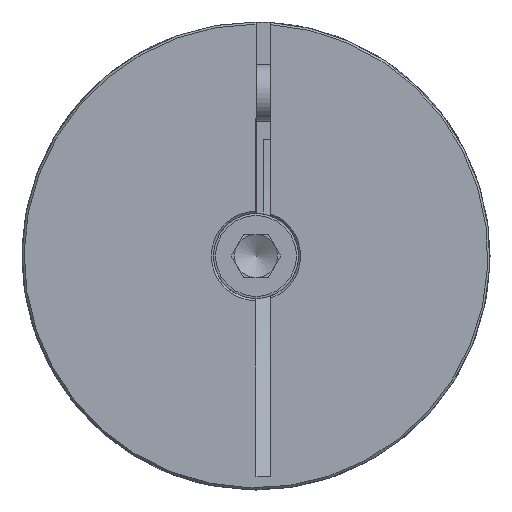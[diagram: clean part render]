
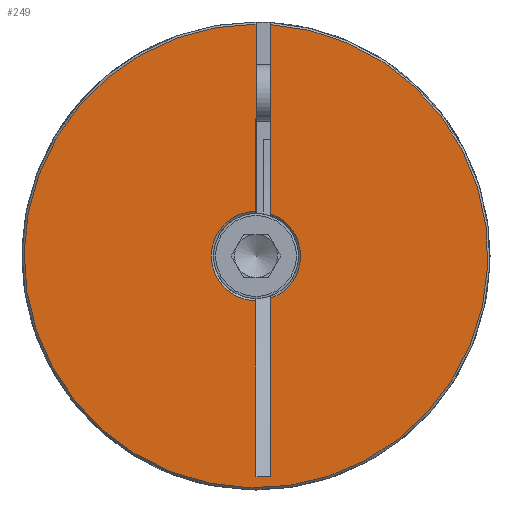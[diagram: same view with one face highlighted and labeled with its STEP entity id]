
A CAD part, left-side view. The second image highlights one B-rep face of the part: STEP entity #249.
In plain terms, the highlighted planar face has unit normal (-1, 0, 0) as drawn and (0, 0, 1) by its records, which use the part's own axes.
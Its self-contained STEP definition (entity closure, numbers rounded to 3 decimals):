
#249 = ADVANCED_FACE( 'NONE', ( #519 ), #520, .T. );
#519 = FACE_OUTER_BOUND( '', #876, .T. );
#520 = PLANE( '', #877 );
#876 = EDGE_LOOP( '', ( #1302, #1303, #1304, #1305, #1306, #1307, #1308, #1309 ) );
#877 = AXIS2_PLACEMENT_3D( '', #1310, #1311, #1312 );
#1302 = ORIENTED_EDGE( '', *, *, #1864, .F. );
#1303 = ORIENTED_EDGE( '', *, *, #1865, .T. );
#1304 = ORIENTED_EDGE( '', *, *, #1791, .F. );
#1305 = ORIENTED_EDGE( '', *, *, #1866, .T. );
#1306 = ORIENTED_EDGE( '', *, *, #1867, .T. );
#1307 = ORIENTED_EDGE( '', *, *, #1868, .T. );
#1308 = ORIENTED_EDGE( '', *, *, #1778, .T. );
#1309 = ORIENTED_EDGE( '', *, *, #1869, .F. );
#1310 = CARTESIAN_POINT( '', ( 0., 0., 29. ) );
#1311 = DIRECTION( '', ( 0., 0., 1. ) );
#1312 = DIRECTION( '', ( 1., 0., 0. ) );
#1778 = EDGE_CURVE( 'NONE', #2015, #2016, #2017, .T. );
#1791 = EDGE_CURVE( 'NONE', #2038, #2039, #2040, .F. );
#1864 = EDGE_CURVE( 'NONE', #2161, #2162, #2163, .F. );
#1865 = EDGE_CURVE( 'NONE', #2161, #2039, #2164, .F. );
#1866 = EDGE_CURVE( 'NONE', #2038, #2165, #2166, .T. );
#1867 = EDGE_CURVE( 'NONE', #2165, #2167, #2168, .T. );
#1868 = EDGE_CURVE( 'NONE', #2167, #2015, #2169, .F. );
#1869 = EDGE_CURVE( 'NONE', #2162, #2016, #2170, .F. );
#2015 = VERTEX_POINT( 'NONE', #2347 );
#2016 = VERTEX_POINT( 'NONE', #2348 );
#2017 = LINE( '', #2349, #2350 );
#2038 = VERTEX_POINT( 'NONE', #2377 );
#2039 = VERTEX_POINT( 'NONE', #2378 );
#2040 = LINE( '', #2379, #2380 );
#2161 = VERTEX_POINT( 'NONE', #2602 );
#2162 = VERTEX_POINT( 'NONE', #2603 );
#2163 = LINE( '', #2604, #2605 );
#2164 = CIRCLE( '', #2606, 6.3 );
#2165 = VERTEX_POINT( 'NONE', #2607 );
#2166 = CIRCLE( '', #2608, 32.7 );
#2167 = VERTEX_POINT( 'NONE', #2609 );
#2168 = LINE( '', #2610, #2611 );
#2169 = CIRCLE( '', #2612, 6.3 );
#2170 = LINE( '', #2613, #2614 );
#2347 = CARTESIAN_POINT( '', ( -5.974, -2., 29. ) );
#2348 = CARTESIAN_POINT( '', ( -31.103, -2., 29. ) );
#2349 = CARTESIAN_POINT( '', ( 0., -2., 29. ) );
#2350 = VECTOR( '', #2902, 1000. );
#2377 = CARTESIAN_POINT( '', ( 32.7, 0., 29. ) );
#2378 = CARTESIAN_POINT( '', ( 6.3, 0., 29. ) );
#2379 = CARTESIAN_POINT( '', ( 16.5, 0., 29. ) );
#2380 = VECTOR( '', #2921, 1000. );
#2602 = CARTESIAN_POINT( '', ( -6.3, 0., 29. ) );
#2603 = CARTESIAN_POINT( '', ( -31.103, 0., 29. ) );
#2604 = CARTESIAN_POINT( '', ( 16.5, 0., 29. ) );
#2605 = VECTOR( '', #3031, 1000. );
#2606 = AXIS2_PLACEMENT_3D( '', #3032, #3033, #3034 );
#2607 = CARTESIAN_POINT( '', ( 32.639, -2., 29. ) );
#2608 = AXIS2_PLACEMENT_3D( '', #3035, #3036, #3037 );
#2609 = CARTESIAN_POINT( '', ( 5.974, -2., 29. ) );
#2610 = CARTESIAN_POINT( '', ( 0., -2., 29. ) );
#2611 = VECTOR( '', #3038, 1000. );
#2612 = AXIS2_PLACEMENT_3D( '', #3039, #3040, #3041 );
#2613 = CARTESIAN_POINT( '', ( -31.103, -2., 29. ) );
#2614 = VECTOR( '', #3042, 1000. );
#2902 = DIRECTION( '', ( -1., 0., 0. ) );
#2921 = DIRECTION( '', ( 1., 0., 0. ) );
#3031 = DIRECTION( '', ( 1., 0., 0. ) );
#3032 = CARTESIAN_POINT( '', ( 0., 0., 29. ) );
#3033 = DIRECTION( '', ( 0., 0., 1. ) );
#3034 = DIRECTION( '', ( 1., 0., 0. ) );
#3035 = CARTESIAN_POINT( '', ( 0., 0., 29. ) );
#3036 = DIRECTION( '', ( 0., 0., 1. ) );
#3037 = DIRECTION( '', ( 1., 0., 0. ) );
#3038 = DIRECTION( '', ( -1., 0., 0. ) );
#3039 = CARTESIAN_POINT( '', ( 0., 0., 29. ) );
#3040 = DIRECTION( '', ( 0., 0., 1. ) );
#3041 = DIRECTION( '', ( 1., 0., 0. ) );
#3042 = DIRECTION( '', ( 0., 1., 0. ) );
